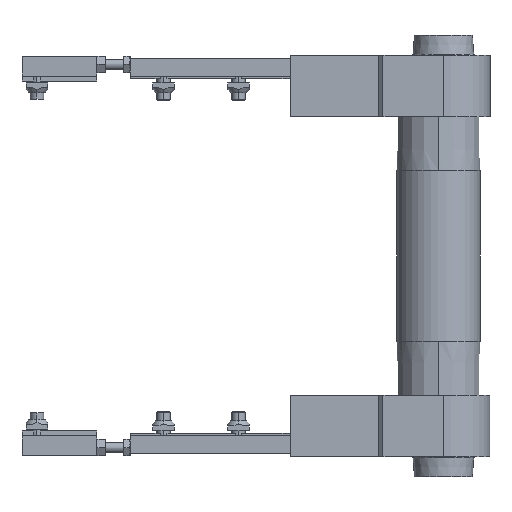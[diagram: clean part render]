
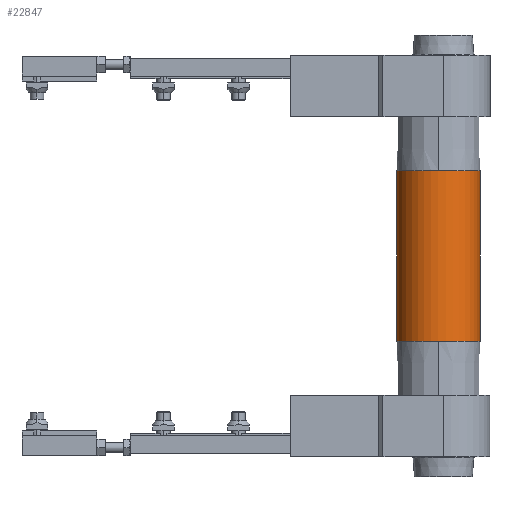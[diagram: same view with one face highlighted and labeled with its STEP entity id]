
A CAD part, front view. The second image highlights one B-rep face of the part: STEP entity #22847.
In plain terms, the highlighted cylindrical face has radius 25 mm (diameter 50 mm), a partial arc.
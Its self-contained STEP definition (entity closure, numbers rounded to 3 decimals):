
#246 = VERTEX_POINT ( 'NONE', #18368 ) ;
#889 = ORIENTED_EDGE ( 'NONE', *, *, #1208, .T. ) ;
#1107 = EDGE_CURVE ( 'NONE', #1123, #16013, #7423, .T. ) ;
#1123 = VERTEX_POINT ( 'NONE', #22496 ) ;
#1208 = EDGE_CURVE ( 'NONE', #6140, #1123, #14755, .T. ) ;
#2426 = DIRECTION ( 'NONE',  ( 0., 0., -1. ) ) ;
#3192 = CARTESIAN_POINT ( 'NONE',  ( 185., -25., -51.25 ) ) ;
#3302 = EDGE_CURVE ( 'NONE', #18620, #5268, #15862, .T. ) ;
#3687 = ORIENTED_EDGE ( 'NONE', *, *, #14962, .F. ) ;
#4648 = EDGE_CURVE ( 'NONE', #6140, #246, #21972, .T. ) ;
#5055 = DIRECTION ( 'NONE',  ( 0., 0., -1. ) ) ;
#5268 = VERTEX_POINT ( 'NONE', #10181 ) ;
#5769 = AXIS2_PLACEMENT_3D ( 'NONE', #13249, #2426, #15080 ) ;
#6140 = VERTEX_POINT ( 'NONE', #13661 ) ;
#7313 = ORIENTED_EDGE ( 'NONE', *, *, #23035, .T. ) ;
#7332 = CIRCLE ( 'NONE', #5769, 25. ) ;
#7423 = CIRCLE ( 'NONE', #20787, 25. ) ;
#7897 = CARTESIAN_POINT ( 'NONE',  ( 185., 0., -51.25 ) ) ;
#8129 = AXIS2_PLACEMENT_3D ( 'NONE', #12059, #11962, #11892 ) ;
#8457 = ORIENTED_EDGE ( 'NONE', *, *, #4648, .F. ) ;
#8666 = CARTESIAN_POINT ( 'NONE',  ( 210., 0., 102.5 ) ) ;
#9270 = CARTESIAN_POINT ( 'NONE',  ( 160., 0., 102.5 ) ) ;
#9708 = DIRECTION ( 'NONE',  ( 0., 1., 0. ) ) ;
#10181 = CARTESIAN_POINT ( 'NONE',  ( 160., 0., -51.25 ) ) ;
#10423 = ORIENTED_EDGE ( 'NONE', *, *, #1107, .T. ) ;
#11069 = DIRECTION ( 'NONE',  ( 0., 0., -1. ) ) ;
#11892 = DIRECTION ( 'NONE',  ( 0., 1., 0. ) ) ;
#11962 = DIRECTION ( 'NONE',  ( 0., 0., -1. ) ) ;
#12059 = CARTESIAN_POINT ( 'NONE',  ( 185., 0., 51.25 ) ) ;
#13249 = CARTESIAN_POINT ( 'NONE',  ( 185., 0., -51.25 ) ) ;
#13270 = LINE ( 'NONE', #9270, #22388 ) ;
#13661 = CARTESIAN_POINT ( 'NONE',  ( 210., 0., 51.25 ) ) ;
#14755 = CIRCLE ( 'NONE', #8129, 25. ) ;
#14962 = EDGE_CURVE ( 'NONE', #246, #18620, #7332, .T. ) ;
#15080 = DIRECTION ( 'NONE',  ( 0., 1., 0. ) ) ;
#15862 = CIRCLE ( 'NONE', #16284, 25. ) ;
#15923 = DIRECTION ( 'NONE',  ( 1., 0., 0. ) ) ;
#16013 = VERTEX_POINT ( 'NONE', #21978 ) ;
#16284 = AXIS2_PLACEMENT_3D ( 'NONE', #7897, #20658, #9708 ) ;
#16730 = CYLINDRICAL_SURFACE ( 'NONE', #18781, 25. ) ;
#17025 = ORIENTED_EDGE ( 'NONE', *, *, #3302, .F. ) ;
#17823 = DIRECTION ( 'NONE',  ( 0., 0., -1. ) ) ;
#18348 = EDGE_LOOP ( 'NONE', ( #889, #10423, #7313, #17025, #3687, #8457 ) ) ;
#18368 = CARTESIAN_POINT ( 'NONE',  ( 210., 0., -51.25 ) ) ;
#18620 = VERTEX_POINT ( 'NONE', #3192 ) ;
#18781 = AXIS2_PLACEMENT_3D ( 'NONE', #23233, #17823, #15923 ) ;
#20658 = DIRECTION ( 'NONE',  ( 0., 0., -1. ) ) ;
#20787 = AXIS2_PLACEMENT_3D ( 'NONE', #22430, #22355, #21480 ) ;
#21419 = VECTOR ( 'NONE', #5055, 1000. ) ;
#21480 = DIRECTION ( 'NONE',  ( 0., 1., 0. ) ) ;
#21972 = LINE ( 'NONE', #8666, #21419 ) ;
#21978 = CARTESIAN_POINT ( 'NONE',  ( 160., 0., 51.25 ) ) ;
#22122 = FACE_OUTER_BOUND ( 'NONE', #18348, .T. ) ;
#22355 = DIRECTION ( 'NONE',  ( 0., 0., -1. ) ) ;
#22388 = VECTOR ( 'NONE', #11069, 1000. ) ;
#22430 = CARTESIAN_POINT ( 'NONE',  ( 185., 0., 51.25 ) ) ;
#22496 = CARTESIAN_POINT ( 'NONE',  ( 185., -25., 51.25 ) ) ;
#22847 = ADVANCED_FACE ( 'NONE', ( #22122 ), #16730, .T. ) ;
#23035 = EDGE_CURVE ( 'NONE', #16013, #5268, #13270, .T. ) ;
#23233 = CARTESIAN_POINT ( 'NONE',  ( 185., 0., 102.5 ) ) ;
